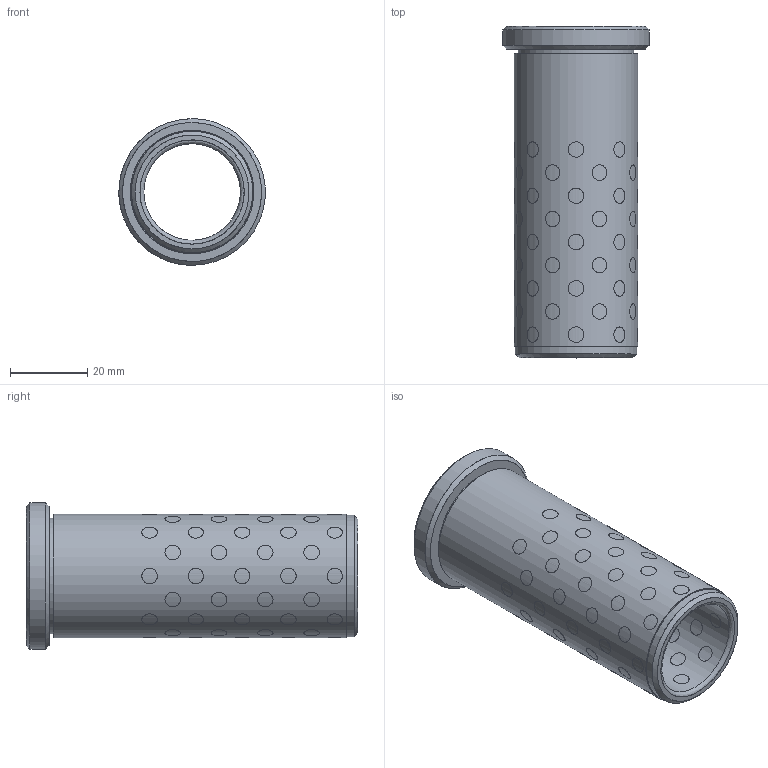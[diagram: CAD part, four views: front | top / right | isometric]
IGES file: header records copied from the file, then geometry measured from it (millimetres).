
Start section: Missler Software BP 521, 31674 Labege Cedex, France Tel   : +33 (0)5 61 00 03 00 Fax   : +33 (0)5 61 00 03 03 Email : sup.topsolid@topsolid.com
Global section: file name: D:\Cuma\D30.05\D30.05_2586.igs; native system: TopSolid v605250 Missler Software; preprocessor: IGES preprocessor v100000; date: 030120.204403; units: millimetre
Bounding box: 37.95 x 86 x 38 mm (x, y, z)
Surface area: 22796.8 mm2 (no closed solid volume)
Topology: 0 solids, 0 shells, 279 faces, 6164 edges, 5980 vertices
Faces by surface type: bspline 279
